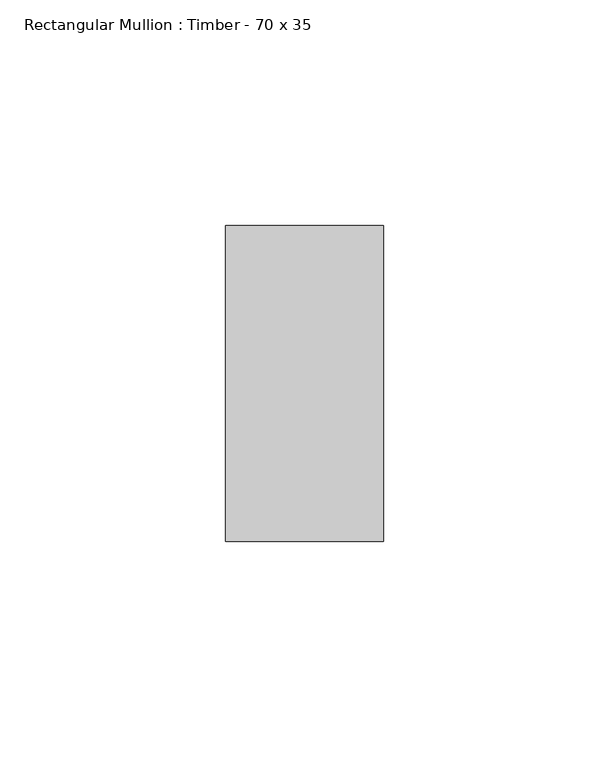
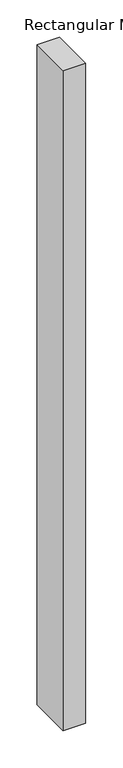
"""IFC4 building model written with IfcOpenShell, lengths in millimetres: member geometry, Rectangular Mullion : Timber - 70 x 35."""

from ifc_helpers import new_model, si_unit, frame, origin, place, context, project, spatial, polyline, outline, extrude, source, transform, mapped, element, save


def rectangular_mullion_timber_70_x_35_baa108a1(model_context):
    return source(origin(), model_context, "Body", "SweptSolid", [
        extrude(outline(polyline([(17.5, 0.0), (17.5, -70.0), (-17.5, -70.0), (-17.5, 0.0), (17.5, 0.0)])), frame((0.0, 0.0, -1082.1428571), z_axis=(0.0, 0.0, 1.0), x_axis=(1.0, 0.0, 0.0)), (0.0, 0.0, 1.0), 1082.1428571),
    ])


if __name__ == "__main__":
    model = new_model("IFC4")
    model_context = context("Model", 3, world=origin())
    ifc_project = project(units=[si_unit("LENGTHUNIT", "METRE", prefix="MILLI")], contexts=[model_context])
    site = spatial("IfcSite", under=ifc_project)
    building = spatial("IfcBuilding", under=site)
    placement = place(None, origin())
    rectangular_mullion_timber_70_x_35_shape = rectangular_mullion_timber_70_x_35_baa108a1(model_context)
    element("IfcMember", 1, ObjectType="Rectangular Mullion : Timber - 70 x 35", at=placement, inside=building, context=model_context, shape_type="MappedRepresentation", body=[
        mapped(rectangular_mullion_timber_70_x_35_shape, transform((0.0, 0.0, 0.0), x_axis=(1.0, 0.0, 0.0), y_axis=(0.0, 1.0, 0.0), z_axis=(0.0, 0.0, 1.0))),
    ])
    save(model, "model.ifc")
